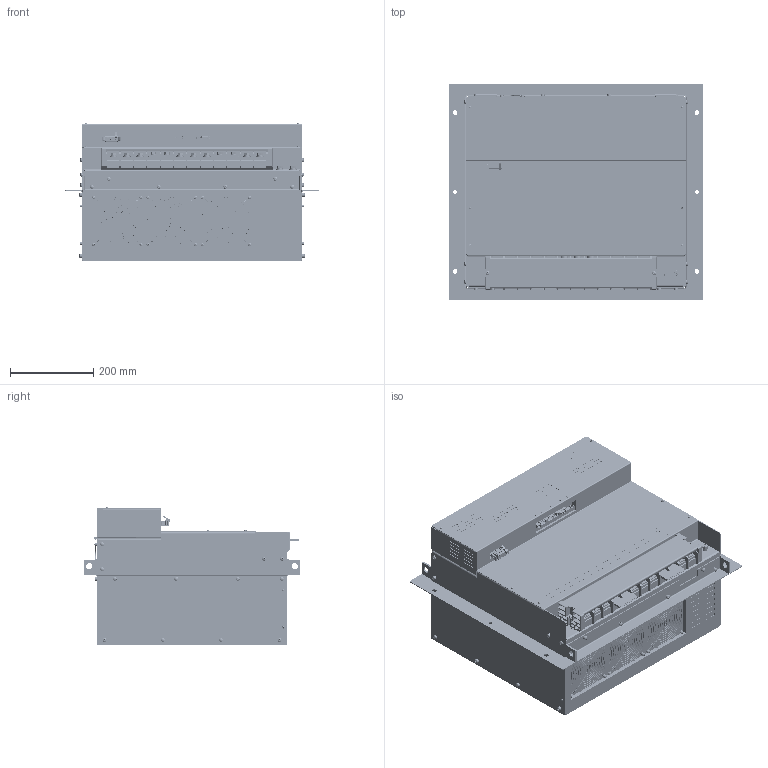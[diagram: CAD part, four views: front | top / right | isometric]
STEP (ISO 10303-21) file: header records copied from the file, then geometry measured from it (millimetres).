
FILE_DESCRIPTION (( 'STEP AP203' ), '1' );
FILE_NAME ('NCR-HB3_753#SE-85900.STEP', '2021-07-08T08:13:36', ( '' ), ( '' ), 'SwSTEP 2.0', 'SolidWorks 2018', '' );
FILE_SCHEMA (( 'CONFIG_CONTROL_DESIGN' ));
Products named in the file (1): NCR-HB3_753#SE-85900
Bounding box: 610 x 520 x 332.95 mm (x, y, z)
Volume: 68512576.9 mm3; surface area: 1947287.4 mm2
Topology: 4 solids, 40 shells, 17753 faces, 48547 edges, 31293 vertices
Faces by surface type: plane 11224, cylinder 2873, bspline 2019, cone 1203, torus 302, sphere 132
Entity records: 631371 total; most frequent: CARTESIAN_POINT 188476, ORIENTED_EDGE 96822, DIRECTION 85344, EDGE_CURVE 48411, VECTOR 31848, LINE 31848, VERTEX_POINT 31293, AXIS2_PLACEMENT_3D 26748
